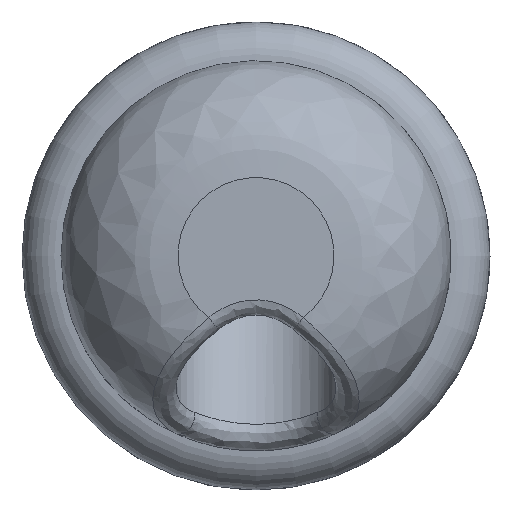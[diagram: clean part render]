
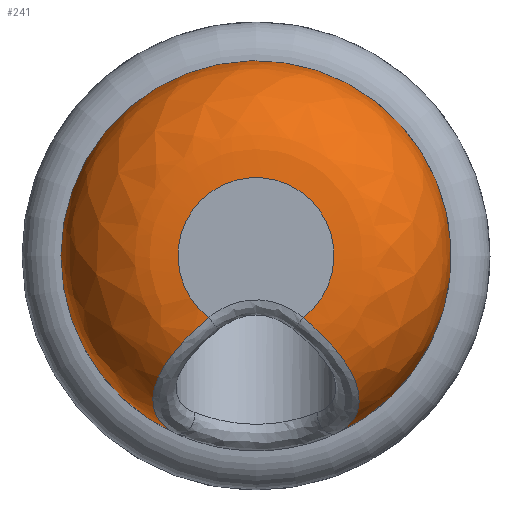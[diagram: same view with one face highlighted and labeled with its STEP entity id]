
A CAD part, top view. The second image highlights one B-rep face of the part: STEP entity #241.
In plain terms, the highlighted free-form (B-spline) face has degree [2, 2] with [3, 9] control points.
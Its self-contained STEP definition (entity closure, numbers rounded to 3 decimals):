
#57=FACE_OUTER_BOUND('',#73,.T.);
#73=EDGE_LOOP('',(#215,#216,#217,#218,#219));
#85=CIRCLE('',#275,2.);
#89=CIRCLE('',#282,5.);
#90=CIRCLE('',#283,5.);
#93=B_SPLINE_CURVE_WITH_KNOTS('',3,(#474,#475,#476,#477,#478,#479),
 .UNSPECIFIED.,.F.,.F.,(4,1,1,4),(0.189,0.293,0.396,
0.552),.UNSPECIFIED.);
#97=B_SPLINE_CURVE_WITH_KNOTS('',3,(#599,#600,#601,#602,#603,#604),
 .UNSPECIFIED.,.F.,.F.,(4,1,1,4),(-0.552,-0.448,
-0.345,-0.189),.UNSPECIFIED.);
#110=VERTEX_POINT('',#471);
#111=VERTEX_POINT('',#473);
#114=VERTEX_POINT('',#538);
#116=VERTEX_POINT('',#597);
#120=VERTEX_POINT('',#692);
#135=EDGE_CURVE('',#110,#111,#93,.T.);
#142=EDGE_CURVE('',#116,#114,#97,.T.);
#147=EDGE_CURVE('',#116,#111,#85,.T.);
#153=EDGE_CURVE('',#110,#120,#89,.T.);
#154=EDGE_CURVE('',#120,#114,#90,.T.);
#215=ORIENTED_EDGE('',*,*,#142,.F.);
#216=ORIENTED_EDGE('',*,*,#147,.T.);
#217=ORIENTED_EDGE('',*,*,#135,.F.);
#218=ORIENTED_EDGE('',*,*,#153,.T.);
#219=ORIENTED_EDGE('',*,*,#154,.T.);
#227=(
BOUNDED_SURFACE()
B_SPLINE_SURFACE(2,2,((#665,#666,#667,#668,#669,#670,#671,#672,#673),(#674,
#675,#676,#677,#678,#679,#680,#681,#682),(#683,#684,#685,#686,#687,#688,
#689,#690,#691)),.UNSPECIFIED.,.F.,.F.,.F.)
B_SPLINE_SURFACE_WITH_KNOTS((3,3),(3,2,2,2,3),(0.,1.571),(-2.716,
-1.358,0.,1.358,2.716),.UNSPECIFIED.)
GEOMETRIC_REPRESENTATION_ITEM()
RATIONAL_B_SPLINE_SURFACE(((1.,0.778,1.,0.778,1.,
0.778,1.,0.778,1.),(0.707,0.55,
0.707,0.55,0.707,0.55,0.707,
0.55,0.707),(1.,0.778,1.,0.778,
1.,0.778,1.,0.778,1.)))
REPRESENTATION_ITEM('')
SURFACE()
);
#241=ADVANCED_FACE('',(#57),#227,.F.);
#275=AXIS2_PLACEMENT_3D('',#654,#325,#326);
#282=AXIS2_PLACEMENT_3D('',#693,#341,#342);
#283=AXIS2_PLACEMENT_3D('',#694,#343,#344);
#325=DIRECTION('center_axis',(0.,0.,-1.));
#326=DIRECTION('ref_axis',(0.,1.,0.));
#341=DIRECTION('center_axis',(0.,0.,1.));
#342=DIRECTION('ref_axis',(0.,1.,0.));
#343=DIRECTION('center_axis',(0.,0.,1.));
#344=DIRECTION('ref_axis',(0.,1.,0.));
#471=CARTESIAN_POINT('',(2.064,-4.554,2.));
#473=CARTESIAN_POINT('',(1.213,-1.59,5.));
#474=CARTESIAN_POINT('Ctrl Pts',(2.064,-4.554,2.));
#475=CARTESIAN_POINT('Ctrl Pts',(2.333,-4.432,2.366));
#476=CARTESIAN_POINT('Ctrl Pts',(2.719,-4.05,3.172));
#477=CARTESIAN_POINT('Ctrl Pts',(2.598,-2.953,4.535));
#478=CARTESIAN_POINT('Ctrl Pts',(1.758,-2.058,5.));
#479=CARTESIAN_POINT('Ctrl Pts',(1.213,-1.59,5.));
#538=CARTESIAN_POINT('',(-2.064,-4.554,2.));
#597=CARTESIAN_POINT('',(-1.213,-1.59,5.));
#599=CARTESIAN_POINT('Ctrl Pts',(-1.213,-1.59,5.));
#600=CARTESIAN_POINT('Ctrl Pts',(-1.577,-1.902,5.));
#601=CARTESIAN_POINT('Ctrl Pts',(-2.277,-2.578,4.77));
#602=CARTESIAN_POINT('Ctrl Pts',(-2.847,-3.787,3.623));
#603=CARTESIAN_POINT('Ctrl Pts',(-2.468,-4.371,2.549));
#604=CARTESIAN_POINT('Ctrl Pts',(-2.064,-4.554,2.));
#654=CARTESIAN_POINT('Origin',(0.,0.,5.));
#665=CARTESIAN_POINT('Ctrl Pts',(2.064,-4.554,2.));
#666=CARTESIAN_POINT('Ctrl Pts',(5.739,-2.889,2.));
#667=CARTESIAN_POINT('Ctrl Pts',(4.887,1.056,2.));
#668=CARTESIAN_POINT('Ctrl Pts',(4.035,5.,2.));
#669=CARTESIAN_POINT('Ctrl Pts',(0.,5.,2.));
#670=CARTESIAN_POINT('Ctrl Pts',(-4.035,5.,2.));
#671=CARTESIAN_POINT('Ctrl Pts',(-4.887,1.056,2.));
#672=CARTESIAN_POINT('Ctrl Pts',(-5.739,-2.889,2.));
#673=CARTESIAN_POINT('Ctrl Pts',(-2.064,-4.554,2.));
#674=CARTESIAN_POINT('Ctrl Pts',(2.064,-4.554,5.));
#675=CARTESIAN_POINT('Ctrl Pts',(5.739,-2.889,5.));
#676=CARTESIAN_POINT('Ctrl Pts',(4.887,1.056,5.));
#677=CARTESIAN_POINT('Ctrl Pts',(4.035,5.,5.));
#678=CARTESIAN_POINT('Ctrl Pts',(0.,5.,5.));
#679=CARTESIAN_POINT('Ctrl Pts',(-4.035,5.,5.));
#680=CARTESIAN_POINT('Ctrl Pts',(-4.887,1.056,5.));
#681=CARTESIAN_POINT('Ctrl Pts',(-5.739,-2.889,5.));
#682=CARTESIAN_POINT('Ctrl Pts',(-2.064,-4.554,5.));
#683=CARTESIAN_POINT('Ctrl Pts',(0.825,-1.822,5.));
#684=CARTESIAN_POINT('Ctrl Pts',(2.296,-1.155,5.));
#685=CARTESIAN_POINT('Ctrl Pts',(1.955,0.422,5.));
#686=CARTESIAN_POINT('Ctrl Pts',(1.614,2.,5.));
#687=CARTESIAN_POINT('Ctrl Pts',(0.,2.,5.));
#688=CARTESIAN_POINT('Ctrl Pts',(-1.614,2.,5.));
#689=CARTESIAN_POINT('Ctrl Pts',(-1.955,0.422,5.));
#690=CARTESIAN_POINT('Ctrl Pts',(-2.296,-1.155,5.));
#691=CARTESIAN_POINT('Ctrl Pts',(-0.825,-1.822,5.));
#692=CARTESIAN_POINT('',(-5.,0.,2.));
#693=CARTESIAN_POINT('Origin',(0.,0.,2.));
#694=CARTESIAN_POINT('Origin',(0.,0.,2.));
